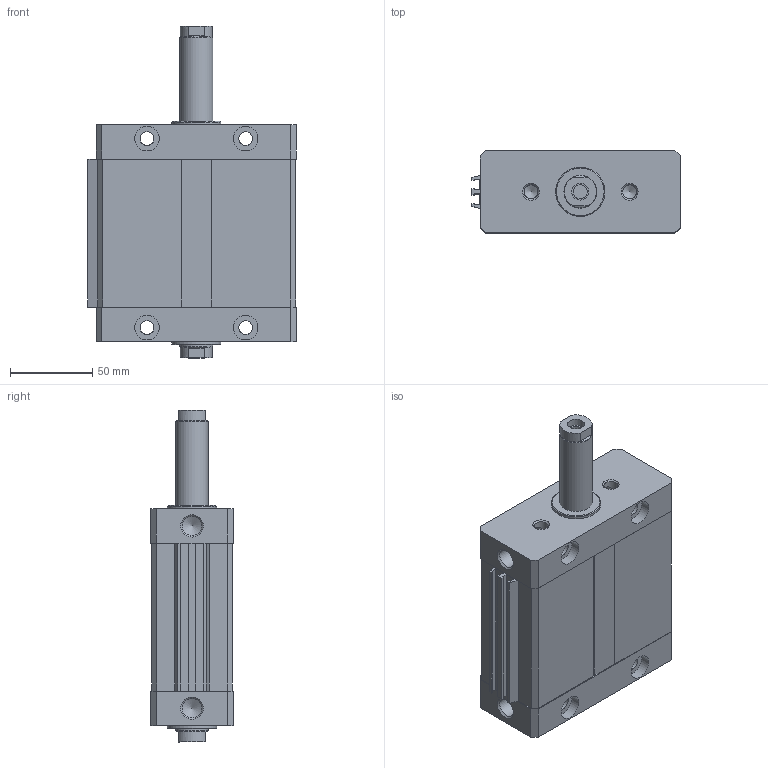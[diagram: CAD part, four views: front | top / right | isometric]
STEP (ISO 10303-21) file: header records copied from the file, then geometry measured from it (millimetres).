
FILE_DESCRIPTION((''),'2;1');
FILE_NAME('I:\Area Tecnica\Disegni\VARIE-3D\Componenti\1370 - CPO\1370_##_0000_03\1370_63_0050_03-01.iam.step','2010-12-16T11:00:54',(''),(''),'Autodesk Inventor 2011','Autodesk Inventor 2011','');
FILE_SCHEMA(('AUTOMOTIVE_DESIGN { 1 0 10303 214 1 1 1 1 }'));
Length unit declared in the file: millimetre
Products named in the file (5): 1370_63_0050_03-01; 1370_05_63_0000; 1370_06_63_0050; 1370_08_63_0000; 1370_3_63_0050
Assembly tree (4 placements, depth 2):
  1370_63_0050_03-01
    1370_05_63_0000
    1370_06_63_0050
    1370_08_63_0000
    1370_3_63_0050
Bounding box: 126.75 x 50 x 202 mm (x, y, z)
Volume: 638464.3 mm3; surface area: 140424.9 mm2
Topology: 4 solids, 4 shells, 164 faces, 398 edges, 252 vertices
Faces by surface type: plane 94, cylinder 50, cone 20
Full cylindrical faces by diameter (mm): 8.5 x20, 10.3 x2, 11.75 x2, 15 x8, 20 x4, 30 x2
Entity records: 4722 total; most frequent: DIRECTION 794, CARTESIAN_POINT 737, ORIENTED_EDGE 652, EDGE_CURVE 326, AXIS2_PLACEMENT_3D 295, EDGE_LOOP 254, VERTEX_POINT 238, VECTOR 204
